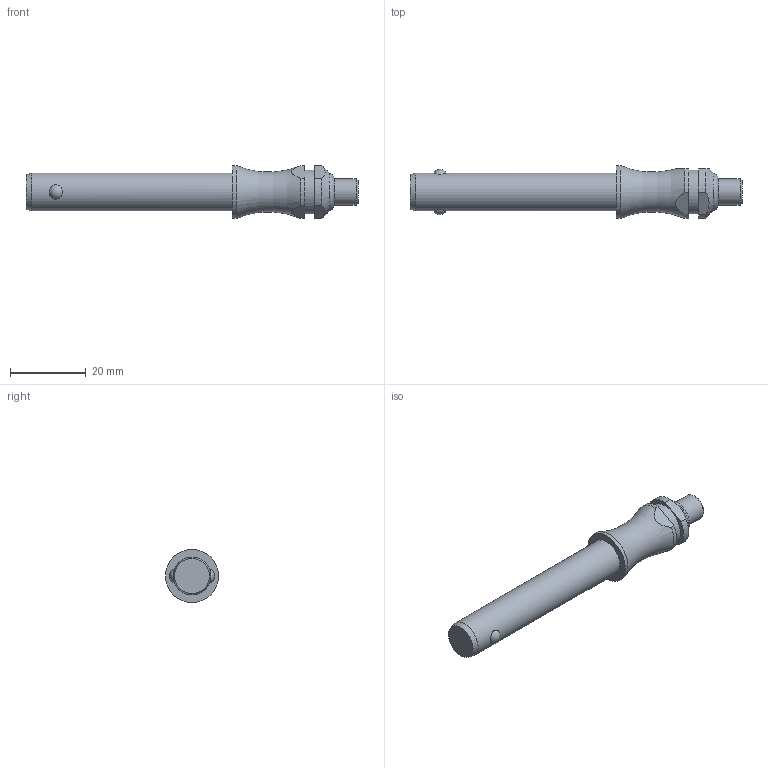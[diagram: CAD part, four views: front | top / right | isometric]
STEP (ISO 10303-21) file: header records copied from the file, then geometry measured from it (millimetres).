
FILE_DESCRIPTION( ( 'STEP AP203' ), '1' );
FILE_NAME( 'C:/Temp/Ganter_Step_05_03_2020/data/3_1/gn113_3/Stainless Steel-Ball lock pin GN 113.3-10-45 (deactivated).stp', '2020-03-12T08:18:34', ( 'License CC BY-ND 4.0' ), ( 'CADENAS' ), ' ', 'PARTsolutions', ' ' );
FILE_SCHEMA( ( 'CONFIG_CONTROL_DESIGN' ) );
Length unit declared in the file: millimetre
Products named in the file (1): _Stainless Steel-Ball lock pin GN 113.3-10-45 (deactivated)
Bounding box: 87.9 x 14 x 14 mm (x, y, z)
Volume: 7513.7 mm3; surface area: 3174.3 mm2
Topology: 1 solids, 1 shells, 28 faces, 60 edges, 39 vertices
Faces by surface type: plane 11, cylinder 10, cone 3, torus 2, sphere 2
Full cylindrical faces by diameter (mm): 7 x1, 10 x1, 11.6 x1, 14 x1
Entity records: 940 total; most frequent: CARTESIAN_POINT 327, DIRECTION 122, ORIENTED_EDGE 98, AXIS2_PLACEMENT_3D 52, EDGE_CURVE 49, EDGE_LOOP 42, VERTEX_POINT 37, FACE_OUTER_BOUND 34
